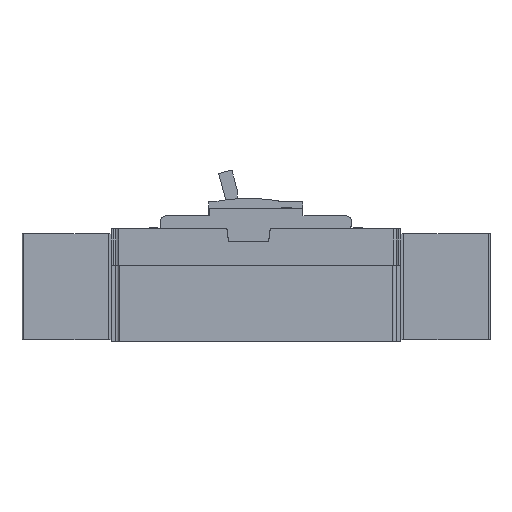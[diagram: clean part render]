
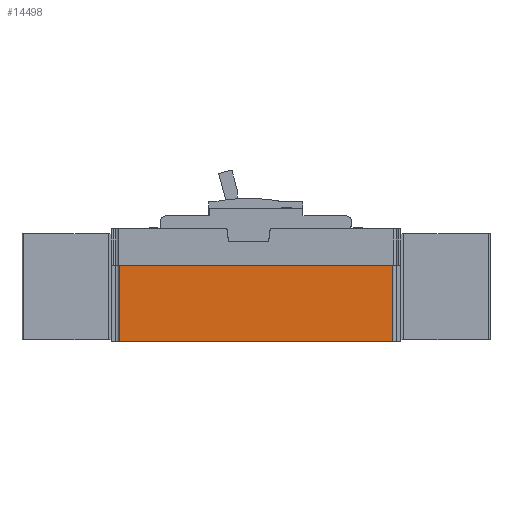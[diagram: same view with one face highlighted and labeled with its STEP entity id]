
A CAD part, left-side view. The second image highlights one B-rep face of the part: STEP entity #14498.
In plain terms, the highlighted planar face has unit normal (-1, 0, 0).
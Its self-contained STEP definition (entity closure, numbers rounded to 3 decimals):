
#5862 = VERTEX_POINT ( 'NONE', #23902 ) ;
#6343 = VERTEX_POINT ( 'NONE', #27097 ) ;
#6344 = VERTEX_POINT ( 'NONE', #27098 ) ;
#6346 = VERTEX_POINT ( 'NONE', #27100 ) ;
#14498 = ADVANCED_FACE ( 'NONE', ( #25220 ), #27687, .F. ) ;
#14691 = EDGE_CURVE ( 'NONE', #6343, #6346, #28396, .T. ) ;
#14692 = EDGE_CURVE ( 'NONE', #6344, #6346, #28399, .T. ) ;
#14696 = EDGE_CURVE ( 'NONE', #6343, #5862, #28411, .T. ) ;
#14697 = EDGE_CURVE ( 'NONE', #5862, #6344, #28414, .T. ) ;
#17036 = EDGE_LOOP ( 'NONE', ( #45800, #45792, #45787, #45790 ) ) ;
#23902 = CARTESIAN_POINT ( 'NONE',  ( -45., 73.5, -35.85 ) ) ;
#24810 = AXIS2_PLACEMENT_3D ( 'NONE', #27688, #27689, #27690 ) ;
#25220 = FACE_OUTER_BOUND ( 'NONE', #17036, .T. ) ;
#26741 = VECTOR ( 'NONE', #28413, 1000. ) ;
#26756 = VECTOR ( 'NONE', #28401, 1000. ) ;
#26822 = VECTOR ( 'NONE', #28398, 1000. ) ;
#26855 = VECTOR ( 'NONE', #28416, 1000. ) ;
#27097 = CARTESIAN_POINT ( 'NONE',  ( -45., -73.5, -35.85 ) ) ;
#27098 = CARTESIAN_POINT ( 'NONE',  ( -45., 73.5, 5.05 ) ) ;
#27100 = CARTESIAN_POINT ( 'NONE',  ( -45., -73.5, 5.05 ) ) ;
#27687 = PLANE ( 'NONE',  #24810 ) ;
#27688 = CARTESIAN_POINT ( 'NONE',  ( -45., 0., 0. ) ) ;
#27689 = DIRECTION ( 'NONE',  ( 1., 0., 0. ) ) ;
#27690 = DIRECTION ( 'NONE',  ( 0., 0., -1. ) ) ;
#28396 = LINE ( 'NONE', #28397, #26822 ) ;
#28397 = CARTESIAN_POINT ( 'NONE',  ( -45., -73.5, 5.15 ) ) ;
#28398 = DIRECTION ( 'NONE',  ( 0., 0., 1. ) ) ;
#28399 = LINE ( 'NONE', #28400, #26756 ) ;
#28400 = CARTESIAN_POINT ( 'NONE',  ( -45., 0., 5.05 ) ) ;
#28401 = DIRECTION ( 'NONE',  ( 0., -1., 0. ) ) ;
#28411 = LINE ( 'NONE', #28412, #26741 ) ;
#28412 = CARTESIAN_POINT ( 'NONE',  ( -45., -77.75, -35.85 ) ) ;
#28413 = DIRECTION ( 'NONE',  ( 0., 1., 0. ) ) ;
#28414 = LINE ( 'NONE', #28415, #26855 ) ;
#28415 = CARTESIAN_POINT ( 'NONE',  ( -45., 73.5, 5.15 ) ) ;
#28416 = DIRECTION ( 'NONE',  ( 0., 0., 1. ) ) ;
#45787 = ORIENTED_EDGE ( 'NONE', *, *, #14697, .F. ) ;
#45790 = ORIENTED_EDGE ( 'NONE', *, *, #14696, .F. ) ;
#45792 = ORIENTED_EDGE ( 'NONE', *, *, #14692, .F. ) ;
#45800 = ORIENTED_EDGE ( 'NONE', *, *, #14691, .T. ) ;
